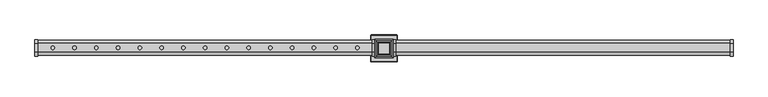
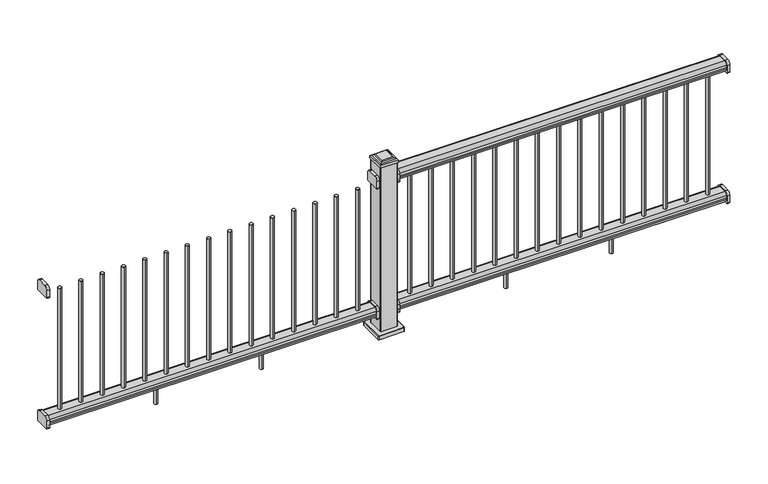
"""IFC4 building model written with IfcOpenShell, lengths in millimetres: railing geometry, NewTechWood - Peruvian Teak."""

from ifc_helpers import new_model, si_unit, point, frame, frame_2d, origin, place, context, project, spatial, polyline, circle_curve, ellipse_curve, trimmed, segment, composite_curve, outline, extrude, faceted_brep, source, transform, mapped, element, save
from ifc_brep_helpers import plane_surface, cylinder_surface, revolved_surface, advanced_brep


def railing_ed96c6c9(model_context):
    return source(origin(), model_context, "Body", "SolidModel", [
        extrude(outline(composite_curve([segment(polyline([(11496.7392028, 160.1), (11546.1692028, 160.1)]), True, "CONTINUOUS"), segment(trimmed(circle_curve(frame_2d((11546.1692028, 140.42)), 19.68), [point((11546.1692028, 160.1))], [point((11565.8492028, 140.42))], False, "CARTESIAN"), True, "CONTINUOUS"), segment(polyline([(11565.8492028, 140.42), (11565.8492028, 98.95)]), True, "CONTINUOUS"), segment(trimmed(circle_curve(frame_2d((11562.2992028, 98.95)), 3.55), [point((11565.8492028, 98.95))], [point((11562.2992028, 95.4))], False, "CARTESIAN"), True, "CONTINUOUS"), segment(polyline([(11562.2992028, 95.4), (11480.6092028, 95.4)]), True, "CONTINUOUS"), segment(trimmed(circle_curve(frame_2d((11480.6092028, 98.95)), 3.55), [point((11480.6092028, 95.4))], [point((11477.0592028, 98.95))], False, "CARTESIAN"), True, "CONTINUOUS"), segment(polyline([(11477.0592028, 98.95), (11477.0592028, 140.42)]), True, "CONTINUOUS"), segment(trimmed(circle_curve(frame_2d((11496.7392028, 140.42)), 19.68), [point((11477.0592028, 140.42))], [point((11496.7392028, 160.1))], False, "CARTESIAN"), True, "CONTINUOUS")], self_intersect=False)), frame((22177.9458255, 0.0, 0.0), z_axis=(1.0, 0.0, 0.0), x_axis=(0.0, 1.0, 0.0)), (0.0, 0.0, 1.0), 15.0),
        extrude(outline(composite_curve([segment(polyline([(11496.7392028, 160.1), (11546.1692028, 160.1)]), True, "CONTINUOUS"), segment(trimmed(circle_curve(frame_2d((11546.1692028, 140.42)), 19.68), [point((11546.1692028, 160.1))], [point((11565.8492028, 140.42))], False, "CARTESIAN"), True, "CONTINUOUS"), segment(polyline([(11565.8492028, 140.42), (11565.8492028, 98.95)]), True, "CONTINUOUS"), segment(trimmed(circle_curve(frame_2d((11562.2992028, 98.95)), 3.55), [point((11565.8492028, 98.95))], [point((11562.2992028, 95.4))], False, "CARTESIAN"), True, "CONTINUOUS"), segment(polyline([(11562.2992028, 95.4), (11480.6092028, 95.4)]), True, "CONTINUOUS"), segment(trimmed(circle_curve(frame_2d((11480.6092028, 98.95)), 3.55), [point((11480.6092028, 95.4))], [point((11477.0592028, 98.95))], False, "CARTESIAN"), True, "CONTINUOUS"), segment(polyline([(11477.0592028, 98.95), (11477.0592028, 140.42)]), True, "CONTINUOUS"), segment(trimmed(circle_curve(frame_2d((11496.7392028, 140.42)), 19.68), [point((11477.0592028, 140.42))], [point((11496.7392028, 160.1))], False, "CARTESIAN"), True, "CONTINUOUS")], self_intersect=False)), frame((23991.9458255, 0.0, 0.0), z_axis=(1.0, 0.0, 0.0), x_axis=(0.0, 1.0, 0.0)), (0.0, 0.0, 1.0), 15.0),
        extrude(outline(composite_curve([segment(trimmed(circle_curve(frame_2d((11546.1692028, 899.42)), 19.68), [point((11546.1692028, 919.1))], [point((11565.8492028, 899.42))], False, "CARTESIAN"), True, "CONTINUOUS"), segment(polyline([(11565.8492028, 899.42), (11565.8492028, 857.95)]), True, "CONTINUOUS"), segment(trimmed(circle_curve(frame_2d((11562.2992028, 857.95)), 3.55), [point((11565.8492028, 857.95))], [point((11562.2992028, 854.4))], False, "CARTESIAN"), True, "CONTINUOUS"), segment(polyline([(11562.2992028, 854.4), (11480.6092028, 854.4)]), True, "CONTINUOUS"), segment(trimmed(circle_curve(frame_2d((11480.6092028, 857.95)), 3.55), [point((11480.6092028, 854.4))], [point((11477.0592028, 857.95))], False, "CARTESIAN"), True, "CONTINUOUS"), segment(polyline([(11477.0592028, 857.95), (11477.0592028, 899.42)]), True, "CONTINUOUS"), segment(trimmed(circle_curve(frame_2d((11496.7392028, 899.42)), 19.68), [point((11477.0592028, 899.42))], [point((11496.7392028, 919.1))], False, "CARTESIAN"), True, "CONTINUOUS"), segment(polyline([(11496.7392028, 919.1), (11546.1692028, 919.1)]), True, "CONTINUOUS")], self_intersect=False)), frame((22177.9458255, 0.0, 0.0), z_axis=(1.0, 0.0, 0.0), x_axis=(0.0, 1.0, 0.0)), (0.0, 0.0, 1.0), 15.0),
        extrude(outline(composite_curve([segment(trimmed(circle_curve(frame_2d((11546.1692028, 899.42)), 19.68), [point((11546.1692028, 919.1))], [point((11565.8492028, 899.42))], False, "CARTESIAN"), True, "CONTINUOUS"), segment(polyline([(11565.8492028, 899.42), (11565.8492028, 857.95)]), True, "CONTINUOUS"), segment(trimmed(circle_curve(frame_2d((11562.2992028, 857.95)), 3.55), [point((11565.8492028, 857.95))], [point((11562.2992028, 854.4))], False, "CARTESIAN"), True, "CONTINUOUS"), segment(polyline([(11562.2992028, 854.4), (11480.6092028, 854.4)]), True, "CONTINUOUS"), segment(trimmed(circle_curve(frame_2d((11480.6092028, 857.95)), 3.55), [point((11480.6092028, 854.4))], [point((11477.0592028, 857.95))], False, "CARTESIAN"), True, "CONTINUOUS"), segment(polyline([(11477.0592028, 857.95), (11477.0592028, 899.42)]), True, "CONTINUOUS"), segment(trimmed(circle_curve(frame_2d((11496.7392028, 899.42)), 19.68), [point((11477.0592028, 899.42))], [point((11496.7392028, 919.1))], False, "CARTESIAN"), True, "CONTINUOUS"), segment(polyline([(11496.7392028, 919.1), (11546.1692028, 919.1)]), True, "CONTINUOUS")], self_intersect=False)), frame((23991.9458255, 0.0, 0.0), z_axis=(1.0, 0.0, 0.0), x_axis=(0.0, 1.0, 0.0)), (0.0, 0.0, 1.0), 15.0),
        advanced_brep(
        [(22802.945858, 11511.9542028, 127.5), (22802.945858, 11530.9542028, 127.5), (22793.445858, 11521.4542028, 127.5), (22802.945858, 11511.9542028, -0.0239603), (22802.945858, 11530.9542028, -0.0239603), (22793.445858, 11521.4542028, -0.0239603)],
        [
            (0, 1, circle_curve(frame((22802.945858, 11521.4542028, 127.5), z_axis=(0.0, 0.0, 1.0), x_axis=(0.0, 1.0, 0.0)), 9.5)),
            (1, 2, circle_curve(frame((22802.945858, 11521.4542028, 127.5), z_axis=(0.0, 0.0, 1.0), x_axis=(0.0, 1.0, 0.0)), 9.5)),
            (2, 0, circle_curve(frame((22802.945858, 11521.4542028, 127.5), z_axis=(0.0, 0.0, 1.0), x_axis=(0.0, 1.0, 0.0)), 9.5)),
            (0, 3),
            (3, 4, circle_curve(frame((22802.945858, 11521.4542028, -0.0239603), z_axis=(0.0, 0.0, 1.0), x_axis=(0.0, 1.0, 0.0)), 9.5)),
            (4, 1),
            (4, 5, circle_curve(frame((22802.945858, 11521.4542028, -0.0239603), z_axis=(0.0, 0.0, 1.0), x_axis=(0.0, 1.0, 0.0)), 9.5)),
            (5, 3, circle_curve(frame((22802.945858, 11521.4542028, -0.0239603), z_axis=(0.0, 0.0, 1.0), x_axis=(0.0, 1.0, 0.0)), 9.5)),
        ],
        [
            plane_surface(frame((23391.4457931, 11671.4542028, 127.5), z_axis=(0.0, 0.0, 1.0), x_axis=(0.0, -1.0, 0.0))),
            cylinder_surface(frame((22802.945858, 11521.4542028, -0.3192207), z_axis=(0.0, 0.0, 1.0), x_axis=(0.0, 1.0, 0.0)), 9.5),
            plane_surface(frame((22793.445858, 11671.4542028, -0.0239603), z_axis=(0.0, 0.0, -1.0), x_axis=(0.0, -1.0, 0.0))),
        ],
        [
            (0, [[1, 2, 3]]),
            (1, [[4, 5, 6, -1]]),
            (1, [[-4, -3, -2, -6, 7, 8]]),
            (2, [[-5, -8, -7]]),
        ],
    ),
        advanced_brep(
        [(23381.9457931, 11511.9542028, 127.5), (23391.4457931, 11521.4542028, 127.5), (23381.9457931, 11530.9542028, 127.5), (23381.9457931, 11511.9542028, -0.0102232), (23391.4457931, 11521.4542028, -0.0102232), (23381.9457931, 11530.9542028, -0.0102232)],
        [
            (0, 1, circle_curve(frame((23381.9457931, 11521.4542028, 127.5), z_axis=(0.0, 0.0, 1.0), x_axis=(0.0, 1.0, 0.0)), 9.5)),
            (1, 2, circle_curve(frame((23381.9457931, 11521.4542028, 127.5), z_axis=(0.0, 0.0, 1.0), x_axis=(0.0, 1.0, 0.0)), 9.5)),
            (2, 0, circle_curve(frame((23381.9457931, 11521.4542028, 127.5), z_axis=(0.0, 0.0, 1.0), x_axis=(0.0, 1.0, 0.0)), 9.5)),
            (0, 3),
            (3, 4, circle_curve(frame((23381.9457931, 11521.4542028, -0.0102232), z_axis=(0.0, 0.0, 1.0), x_axis=(0.0, 1.0, 0.0)), 9.5)),
            (4, 5, circle_curve(frame((23381.9457931, 11521.4542028, -0.0102232), z_axis=(0.0, 0.0, 1.0), x_axis=(0.0, 1.0, 0.0)), 9.5)),
            (5, 2),
            (5, 3, circle_curve(frame((23381.9457931, 11521.4542028, -0.0102232), z_axis=(0.0, 0.0, 1.0), x_axis=(0.0, 1.0, 0.0)), 9.5)),
        ],
        [
            plane_surface(frame((23391.4457931, 11671.4542028, 127.5), z_axis=(0.0, 0.0, 1.0), x_axis=(0.0, -1.0, 0.0))),
            cylinder_surface(frame((23381.9457931, 11521.4542028, 0.0), z_axis=(0.0, 0.0, 1.0), x_axis=(0.0, 1.0, 0.0)), 9.5),
            plane_surface(frame((23371.9457931, 11671.4542028, -0.0102232), z_axis=(0.0, 0.0, -1.0), x_axis=(0.0, -1.0, 0.0))),
        ],
        [
            (0, [[1, 2, 3]]),
            (1, [[4, 5, 6, 7, -2, -1]]),
            (1, [[-4, -3, -7, 8]]),
            (2, [[-5, -8, -6]]),
        ],
    ),
        extrude(outline(composite_curve([segment(trimmed(circle_curve(frame_2d((22741.7029684, 11521.4542028)), 9.6), [point((22741.7029684, 11531.0542028))], [point((22741.7029684, 11511.8542028))], False, "CARTESIAN"), True, "CONTINUOUS"), segment(trimmed(circle_curve(frame_2d((22741.7029684, 11521.4542028)), 9.6), [point((22741.7029684, 11511.8542028))], [point((22741.7029684, 11531.0542028))], False, "CARTESIAN"), True, "CONTINUOUS")], self_intersect=False)), frame((0.0, 0.0, 155.0), z_axis=(0.0, 0.0, 1.0), x_axis=(1.0, 0.0, 0.0)), (0.0, 0.0, 1.0), 704.1),
        extrude(outline(composite_curve([segment(trimmed(circle_curve(frame_2d((22858.6172541, 11521.4542028)), 9.6), [point((22858.6172541, 11531.0542028))], [point((22858.6172541, 11511.8542028))], False, "CARTESIAN"), True, "CONTINUOUS"), segment(trimmed(circle_curve(frame_2d((22858.6172541, 11521.4542028)), 9.6), [point((22858.6172541, 11511.8542028))], [point((22858.6172541, 11531.0542028))], False, "CARTESIAN"), True, "CONTINUOUS")], self_intersect=False)), frame((0.0, 0.0, 155.0), z_axis=(0.0, 0.0, 1.0), x_axis=(1.0, 0.0, 0.0)), (0.0, 0.0, 1.0), 704.1),
        extrude(outline(composite_curve([segment(trimmed(circle_curve(frame_2d((22975.5315398, 11521.4542028)), 9.6), [point((22975.5315398, 11531.0542028))], [point((22975.5315398, 11511.8542028))], False, "CARTESIAN"), True, "CONTINUOUS"), segment(trimmed(circle_curve(frame_2d((22975.5315398, 11521.4542028)), 9.6), [point((22975.5315398, 11511.8542028))], [point((22975.5315398, 11531.0542028))], False, "CARTESIAN"), True, "CONTINUOUS")], self_intersect=False)), frame((0.0, 0.0, 155.0), z_axis=(0.0, 0.0, 1.0), x_axis=(1.0, 0.0, 0.0)), (0.0, 0.0, 1.0), 704.1),
        extrude(outline(composite_curve([segment(trimmed(circle_curve(frame_2d((23092.4458255, 11521.4542028)), 9.6), [point((23092.4458255, 11531.0542028))], [point((23092.4458255, 11511.8542028))], False, "CARTESIAN"), True, "CONTINUOUS"), segment(trimmed(circle_curve(frame_2d((23092.4458255, 11521.4542028)), 9.6), [point((23092.4458255, 11511.8542028))], [point((23092.4458255, 11531.0542028))], False, "CARTESIAN"), True, "CONTINUOUS")], self_intersect=False)), frame((0.0, 0.0, 155.0), z_axis=(0.0, 0.0, 1.0), x_axis=(1.0, 0.0, 0.0)), (0.0, 0.0, 1.0), 704.1),
        extrude(outline(composite_curve([segment(trimmed(circle_curve(frame_2d((23209.3601112, 11521.4542028)), 9.6), [point((23209.3601112, 11531.0542028))], [point((23209.3601112, 11511.8542028))], False, "CARTESIAN"), True, "CONTINUOUS"), segment(trimmed(circle_curve(frame_2d((23209.3601112, 11521.4542028)), 9.6), [point((23209.3601112, 11511.8542028))], [point((23209.3601112, 11531.0542028))], False, "CARTESIAN"), True, "CONTINUOUS")], self_intersect=False)), frame((0.0, 0.0, 155.0), z_axis=(0.0, 0.0, 1.0), x_axis=(1.0, 0.0, 0.0)), (0.0, 0.0, 1.0), 704.1),
        extrude(outline(composite_curve([segment(trimmed(circle_curve(frame_2d((23326.2743969, 11521.4542028)), 9.6), [point((23326.2743969, 11531.0542028))], [point((23326.2743969, 11511.8542028))], False, "CARTESIAN"), True, "CONTINUOUS"), segment(trimmed(circle_curve(frame_2d((23326.2743969, 11521.4542028)), 9.6), [point((23326.2743969, 11511.8542028))], [point((23326.2743969, 11531.0542028))], False, "CARTESIAN"), True, "CONTINUOUS")], self_intersect=False)), frame((0.0, 0.0, 155.0), z_axis=(0.0, 0.0, 1.0), x_axis=(1.0, 0.0, 0.0)), (0.0, 0.0, 1.0), 704.1),
        extrude(outline(composite_curve([segment(trimmed(circle_curve(frame_2d((23443.1886827, 11521.4542028)), 9.6), [point((23443.1886827, 11531.0542028))], [point((23443.1886827, 11511.8542028))], False, "CARTESIAN"), True, "CONTINUOUS"), segment(trimmed(circle_curve(frame_2d((23443.1886827, 11521.4542028)), 9.6), [point((23443.1886827, 11511.8542028))], [point((23443.1886827, 11531.0542028))], False, "CARTESIAN"), True, "CONTINUOUS")], self_intersect=False)), frame((0.0, 0.0, 155.0), z_axis=(0.0, 0.0, 1.0), x_axis=(1.0, 0.0, 0.0)), (0.0, 0.0, 1.0), 704.1),
        extrude(outline(composite_curve([segment(trimmed(circle_curve(frame_2d((22274.0458255, 11521.4542028)), 9.6), [point((22274.0458255, 11531.0542028))], [point((22274.0458255, 11511.8542028))], False, "CARTESIAN"), True, "CONTINUOUS"), segment(trimmed(circle_curve(frame_2d((22274.0458255, 11521.4542028)), 9.6), [point((22274.0458255, 11511.8542028))], [point((22274.0458255, 11531.0542028))], False, "CARTESIAN"), True, "CONTINUOUS")], self_intersect=False)), frame((0.0, 0.0, 155.0), z_axis=(0.0, 0.0, 1.0), x_axis=(1.0, 0.0, 0.0)), (0.0, 0.0, 1.0), 704.1),
        extrude(outline(composite_curve([segment(trimmed(circle_curve(frame_2d((22390.9601112, 11521.4542028)), 9.6), [point((22390.9601112, 11531.0542028))], [point((22390.9601112, 11511.8542028))], False, "CARTESIAN"), True, "CONTINUOUS"), segment(trimmed(circle_curve(frame_2d((22390.9601112, 11521.4542028)), 9.6), [point((22390.9601112, 11511.8542028))], [point((22390.9601112, 11531.0542028))], False, "CARTESIAN"), True, "CONTINUOUS")], self_intersect=False)), frame((0.0, 0.0, 155.0), z_axis=(0.0, 0.0, 1.0), x_axis=(1.0, 0.0, 0.0)), (0.0, 0.0, 1.0), 704.1),
        extrude(outline(composite_curve([segment(trimmed(circle_curve(frame_2d((22507.8743969, 11521.4542028)), 9.6), [point((22507.8743969, 11531.0542028))], [point((22507.8743969, 11511.8542028))], False, "CARTESIAN"), True, "CONTINUOUS"), segment(trimmed(circle_curve(frame_2d((22507.8743969, 11521.4542028)), 9.6), [point((22507.8743969, 11511.8542028))], [point((22507.8743969, 11531.0542028))], False, "CARTESIAN"), True, "CONTINUOUS")], self_intersect=False)), frame((0.0, 0.0, 155.0), z_axis=(0.0, 0.0, 1.0), x_axis=(1.0, 0.0, 0.0)), (0.0, 0.0, 1.0), 704.1),
        extrude(outline(composite_curve([segment(trimmed(circle_curve(frame_2d((22624.7886827, 11521.4542028)), 9.6), [point((22624.7886827, 11531.0542028))], [point((22624.7886827, 11511.8542028))], False, "CARTESIAN"), True, "CONTINUOUS"), segment(trimmed(circle_curve(frame_2d((22624.7886827, 11521.4542028)), 9.6), [point((22624.7886827, 11511.8542028))], [point((22624.7886827, 11531.0542028))], False, "CARTESIAN"), True, "CONTINUOUS")], self_intersect=False)), frame((0.0, 0.0, 155.0), z_axis=(0.0, 0.0, 1.0), x_axis=(1.0, 0.0, 0.0)), (0.0, 0.0, 1.0), 704.1),
        extrude(outline(composite_curve([segment(trimmed(circle_curve(frame_2d((23560.1029684, 11521.4542028)), 9.6), [point((23560.1029684, 11531.0542028))], [point((23560.1029684, 11511.8542028))], False, "CARTESIAN"), True, "CONTINUOUS"), segment(trimmed(circle_curve(frame_2d((23560.1029684, 11521.4542028)), 9.6), [point((23560.1029684, 11511.8542028))], [point((23560.1029684, 11531.0542028))], False, "CARTESIAN"), True, "CONTINUOUS")], self_intersect=False)), frame((0.0, 0.0, 155.0), z_axis=(0.0, 0.0, 1.0), x_axis=(1.0, 0.0, 0.0)), (0.0, 0.0, 1.0), 704.1),
        extrude(outline(composite_curve([segment(trimmed(circle_curve(frame_2d((23677.0172541, 11521.4542028)), 9.6), [point((23677.0172541, 11531.0542028))], [point((23677.0172541, 11511.8542028))], False, "CARTESIAN"), True, "CONTINUOUS"), segment(trimmed(circle_curve(frame_2d((23677.0172541, 11521.4542028)), 9.6), [point((23677.0172541, 11511.8542028))], [point((23677.0172541, 11531.0542028))], False, "CARTESIAN"), True, "CONTINUOUS")], self_intersect=False)), frame((0.0, 0.0, 155.0), z_axis=(0.0, 0.0, 1.0), x_axis=(1.0, 0.0, 0.0)), (0.0, 0.0, 1.0), 704.1),
        extrude(outline(composite_curve([segment(trimmed(circle_curve(frame_2d((23793.9315398, 11521.4542028)), 9.6), [point((23793.9315398, 11531.0542028))], [point((23793.9315398, 11511.8542028))], False, "CARTESIAN"), True, "CONTINUOUS"), segment(trimmed(circle_curve(frame_2d((23793.9315398, 11521.4542028)), 9.6), [point((23793.9315398, 11511.8542028))], [point((23793.9315398, 11531.0542028))], False, "CARTESIAN"), True, "CONTINUOUS")], self_intersect=False)), frame((0.0, 0.0, 155.0), z_axis=(0.0, 0.0, 1.0), x_axis=(1.0, 0.0, 0.0)), (0.0, 0.0, 1.0), 704.1),
        extrude(outline(composite_curve([segment(trimmed(circle_curve(frame_2d((23910.8458255, 11521.4542028)), 9.6), [point((23910.8458255, 11531.0542028))], [point((23910.8458255, 11511.8542028))], False, "CARTESIAN"), True, "CONTINUOUS"), segment(trimmed(circle_curve(frame_2d((23910.8458255, 11521.4542028)), 9.6), [point((23910.8458255, 11511.8542028))], [point((23910.8458255, 11531.0542028))], False, "CARTESIAN"), True, "CONTINUOUS")], self_intersect=False)), frame((0.0, 0.0, 155.0), z_axis=(0.0, 0.0, 1.0), x_axis=(1.0, 0.0, 0.0)), (0.0, 0.0, 1.0), 704.1),
        extrude(outline(composite_curve([segment(polyline([(11543.636591, 100.0161325), (11499.2718146, 100.0161325)]), True, "CONTINUOUS"), segment(trimmed(circle_curve(frame_2d((11499.2718146, 116.7552917)), 16.7391591), [point((11499.2718146, 100.0161325))], [point((11482.5326554, 116.7552917))], False, "CARTESIAN"), True, "CONTINUOUS"), segment(polyline([(11482.5326554, 116.7552917), (11482.5326554, 126.3278473)]), True, "CONTINUOUS"), segment(trimmed(circle_curve(frame_2d((11469.6196989, 132.6660673)), 14.3846265), [point((11482.5326554, 126.3278473))], [point((11482.0441367, 139.9152621))], True, "CARTESIAN"), True, "CONTINUOUS"), segment(trimmed(circle_curve(frame_2d((11497.612742, 139.9152621)), 15.5686053), [point((11482.0441367, 139.9152621))], [point((11497.612742, 155.4838675))], False, "CARTESIAN"), True, "CONTINUOUS"), segment(polyline([(11497.612742, 155.4838675), (11545.2956636, 155.4838675)]), True, "CONTINUOUS"), segment(trimmed(circle_curve(frame_2d((11545.2956636, 139.9152621)), 15.5686053), [point((11545.2956636, 155.4838675))], [point((11560.8642689, 139.9152621))], False, "CARTESIAN"), True, "CONTINUOUS"), segment(trimmed(circle_curve(frame_2d((11573.2887067, 132.6660673)), 14.3846265), [point((11560.8642689, 139.9152621))], [point((11560.3757501, 126.3278473))], True, "CARTESIAN"), True, "CONTINUOUS"), segment(polyline([(11560.3757501, 126.3278473), (11560.3757501, 116.7552917)]), True, "CONTINUOUS"), segment(trimmed(circle_curve(frame_2d((11543.636591, 116.7552917)), 16.7391591), [point((11560.3757501, 116.7552917))], [point((11543.636591, 100.0161325))], False, "CARTESIAN"), True, "CONTINUOUS")], self_intersect=False)), frame((22192.9458255, 0.0, 0.0), z_axis=(1.0, 0.0, 0.0), x_axis=(0.0, 1.0, 0.0)), (0.0, 0.0, 1.0), 1799.0),
        extrude(outline(composite_curve([segment(polyline([(11543.636591, 859.0161325), (11499.2718146, 859.0161325)]), True, "CONTINUOUS"), segment(trimmed(circle_curve(frame_2d((11499.2718146, 875.7552917)), 16.7391591), [point((11499.2718146, 859.0161325))], [point((11482.5326554, 875.7552917))], False, "CARTESIAN"), True, "CONTINUOUS"), segment(polyline([(11482.5326554, 875.7552917), (11482.5326554, 885.3278473)]), True, "CONTINUOUS"), segment(trimmed(circle_curve(frame_2d((11469.6196989, 891.6660673)), 14.3846265), [point((11482.5326554, 885.3278473))], [point((11482.0441367, 898.9152621))], True, "CARTESIAN"), True, "CONTINUOUS"), segment(trimmed(circle_curve(frame_2d((11497.612742, 898.9152621)), 15.5686053), [point((11482.0441367, 898.9152621))], [point((11497.612742, 914.4838675))], False, "CARTESIAN"), True, "CONTINUOUS"), segment(polyline([(11497.612742, 914.4838675), (11545.2956636, 914.4838675)]), True, "CONTINUOUS"), segment(trimmed(circle_curve(frame_2d((11545.2956636, 898.9152621)), 15.5686053), [point((11545.2956636, 914.4838675))], [point((11560.8642689, 898.9152621))], False, "CARTESIAN"), True, "CONTINUOUS"), segment(trimmed(circle_curve(frame_2d((11573.2887067, 891.6660673)), 14.3846265), [point((11560.8642689, 898.9152621))], [point((11560.3757501, 885.3278473))], True, "CARTESIAN"), True, "CONTINUOUS"), segment(polyline([(11560.3757501, 885.3278473), (11560.3757501, 875.7552917)]), True, "CONTINUOUS"), segment(trimmed(circle_curve(frame_2d((11543.636591, 875.7552917)), 16.7391591), [point((11560.3757501, 875.7552917))], [point((11543.636591, 859.0161325))], False, "CARTESIAN"), True, "CONTINUOUS")], self_intersect=False)), frame((22192.9458255, 0.0, 0.0), z_axis=(1.0, 0.0, 0.0), x_axis=(0.0, 1.0, 0.0)), (0.0, 0.0, 1.0), 1799.0),
        advanced_brep(
        [(22198.0584818, 11447.5944784, 22.5), (22201.2180491, 11450.7540458, 22.5), (22201.2180491, 11585.4340458, 22.5), (22198.0584818, 11588.5936132, 22.5), (22063.3784818, 11588.5936132, 22.5), (22060.2189144, 11585.4340458, 22.5), (22060.2189144, 11450.7540458, 22.5), (22063.3784818, 11447.5944784, 22.5), (22058.2184818, 11585.4340458, 0.0), (22063.3784818, 11590.5940458, 0.0), (22198.0584818, 11590.5940458, 0.0), (22203.2184818, 11585.4340458, 0.0), (22203.2184818, 11450.7540458, 0.0), (22198.0584818, 11445.5940458, 0.0), (22063.3784818, 11445.5940458, 0.0), (22058.2184818, 11450.7540458, 0.0), (22058.2184818, 11450.7540458, 20.4995674), (22058.2184818, 11585.4340458, 20.4995674), (22063.3784818, 11445.5940458, 20.499569), (22198.0584818, 11445.5940458, 20.499569), (22203.2184818, 11450.7540458, 20.4995691), (22203.2184818, 11585.4340458, 20.4995674), (22198.0584818, 11590.5940458, 20.4995692), (22063.3784818, 11590.5940458, 20.4995674)],
        [
            (0, 1, circle_curve(frame((22198.0584818, 11450.7540458, 22.5), z_axis=(0.0, 0.0, 1.0), x_axis=(0.0, -1.0, 0.0)), 3.1595674)),
            (1, 2),
            (2, 3, circle_curve(frame((22198.0584818, 11585.4340458, 22.5), z_axis=(0.0, 0.0, 1.0), x_axis=(1.0, 0.0, 0.0)), 3.1595674)),
            (3, 4),
            (4, 5, circle_curve(frame((22063.3784818, 11585.4340458, 22.5), z_axis=(0.0, 0.0, 1.0), x_axis=(0.0, 1.0, 0.0)), 3.1595674)),
            (5, 6),
            (6, 7, circle_curve(frame((22063.3784818, 11450.7540458, 22.5), z_axis=(0.0, 0.0, 1.0), x_axis=(-1.0, 0.0, 0.0)), 3.1595674)),
            (7, 0),
            (8, 9, circle_curve(frame((22063.3784818, 11585.4340458, 0.0), z_axis=(0.0, 0.0, -1.0), x_axis=(0.0, 1.0, 0.0)), 5.16)),
            (9, 10),
            (10, 11, circle_curve(frame((22198.0584818, 11585.4340458, 0.0), z_axis=(0.0, 0.0, -1.0), x_axis=(0.0, 1.0, 0.0)), 5.16)),
            (11, 12),
            (12, 13, circle_curve(frame((22198.0584818, 11450.7540458, 0.0), z_axis=(0.0, 0.0, -1.0), x_axis=(0.0, 1.0, 0.0)), 5.16)),
            (13, 14),
            (14, 15, circle_curve(frame((22063.3784818, 11450.7540458, 0.0), z_axis=(0.0, 0.0, -1.0), x_axis=(0.0, 1.0, 0.0)), 5.16)),
            (15, 8),
            (15, 16),
            (16, 17),
            (17, 8),
            (14, 18),
            (18, 16, circle_curve(frame((22063.3784818, 11450.7540458, 20.4995674), z_axis=(0.0, 0.0, -1.0), x_axis=(0.0, 1.0, 0.0)), 5.16)),
            (13, 19),
            (19, 18),
            (12, 20),
            (20, 19, circle_curve(frame((22198.0584818, 11450.7540458, 20.4995674), z_axis=(0.0, 0.0, -1.0), x_axis=(0.0, 1.0, 0.0)), 5.16)),
            (11, 21),
            (21, 20),
            (10, 22),
            (22, 21, circle_curve(frame((22198.0584818, 11585.4340458, 20.4995674), z_axis=(0.0, 0.0, -1.0), x_axis=(0.0, 1.0, 0.0)), 5.16)),
            (9, 23),
            (23, 22),
            (17, 23, circle_curve(frame((22063.3784818, 11585.4340458, 20.4995674), z_axis=(0.0, 0.0, -1.0), x_axis=(0.0, 1.0, 0.0)), 5.16)),
            (20, 1, circle_curve(frame((22201.2180491, 11450.7540458, 20.4995674), z_axis=(0.0, -1.0, 0.0), x_axis=(-1.0, 0.0, 0.0)), 2.0004326)),
            (0, 19, circle_curve(frame((22198.0584818, 11447.5944784, 20.4995674), z_axis=(1.0, 0.0, 0.0), x_axis=(0.0, 1.0, 0.0)), 2.0004326)),
            (21, 2, circle_curve(frame((22201.2180491, 11585.4340458, 20.4995674), z_axis=(0.0, -1.0, 0.0), x_axis=(-1.0, 0.0, 0.0)), 2.0004326)),
            (22, 3, circle_curve(frame((22198.0584818, 11588.5936132, 20.4995674), z_axis=(1.0, 0.0, 0.0), x_axis=(0.0, -1.0, 0.0)), 2.0004326)),
            (23, 4, circle_curve(frame((22063.3784818, 11588.5936132, 20.4995674), z_axis=(1.0, 0.0, 0.0), x_axis=(0.0, -1.0, 0.0)), 2.0004326)),
            (17, 5, circle_curve(frame((22060.2189144, 11585.4340458, 20.4995674), z_axis=(0.0, 1.0, 0.0), x_axis=(1.0, 0.0, 0.0)), 2.0004326)),
            (16, 6, circle_curve(frame((22060.2189144, 11450.7540458, 20.4995674), z_axis=(0.0, 1.0, 0.0), x_axis=(1.0, 0.0, 0.0)), 2.0004326)),
            (18, 7, circle_curve(frame((22063.3784818, 11447.5944784, 20.4995674), z_axis=(-1.0, 0.0, 0.0), x_axis=(0.0, 1.0, 0.0)), 2.0004326)),
        ],
        [
            plane_surface(frame((22058.2184818, 11558.658052, 22.5), z_axis=(0.0, 0.0, 1.0), x_axis=(0.0, -1.0, 0.0))),
            plane_surface(frame((22058.2184818, 11558.658052, 0.0), z_axis=(0.0, 0.0, -1.0), x_axis=(0.0, 1.0, 0.0))),
            plane_surface(frame((22058.2184818, 11585.4340458, 22.5), z_axis=(-1.0, 0.0, 0.0), x_axis=(0.0, 0.0, -1.0))),
            cylinder_surface(frame((22063.3784818, 11450.7540458, 0.0), z_axis=(0.0, 0.0, 1.0), x_axis=(0.0, 1.0, 0.0)), 5.16),
            plane_surface(frame((22063.3784818, 11445.5940458, 22.5), z_axis=(0.0, -1.0, 0.0), x_axis=(0.0, 0.0, -1.0))),
            cylinder_surface(frame((22198.0584818, 11450.7540458, 0.0), z_axis=(0.0, 0.0, 1.0), x_axis=(0.0, 1.0, 0.0)), 5.16),
            plane_surface(frame((22203.2184818, 11450.7540458, 22.5), z_axis=(1.0, 0.0, 0.0), x_axis=(0.0, 0.0, -1.0))),
            cylinder_surface(frame((22198.0584818, 11585.4340458, 0.0), z_axis=(0.0, 0.0, 1.0), x_axis=(0.0, 1.0, 0.0)), 5.16),
            plane_surface(frame((22198.0584818, 11590.5940458, 22.5), z_axis=(0.0, 1.0, 0.0), x_axis=(0.0, 0.0, -1.0))),
            cylinder_surface(frame((22063.3784818, 11585.4340458, 0.0), z_axis=(0.0, 0.0, 1.0), x_axis=(0.0, 1.0, 0.0)), 5.16),
            revolved_surface(trimmed(ellipse_curve(frame((22198.0584818, 11447.5944784, 20.4995674), z_axis=(-1.0, 0.0, 0.0), x_axis=(0.0, 1.0, 0.0)), 2.0004326, 2.0004326), [point((22198.0584818, 11445.5940458, 20.4995674))], [point((22198.0584818, 11447.5944784, 22.5))], True, "CARTESIAN"), (22198.0584818, 11450.7540458, 22.5), (0.0, 0.0, 1.0)),
            cylinder_surface(frame((22201.2180491, 11450.7540458, 20.4995674), z_axis=(0.0, 1.0, 0.0), x_axis=(-1.0, 0.0, 0.0)), 2.0004326),
            revolved_surface(trimmed(ellipse_curve(frame((22201.2180491, 11585.4340458, 20.4995674), z_axis=(0.0, -1.0, 0.0), x_axis=(-1.0, 0.0, 0.0)), 2.0004326, 2.0004326), [point((22203.2184818, 11585.4340458, 20.4995674))], [point((22201.2180491, 11585.4340458, 22.5))], True, "CARTESIAN"), (22198.0584818, 11585.4340458, 22.5), (0.0, 0.0, 1.0)),
            cylinder_surface(frame((22198.0584818, 11588.5936132, 20.4995674), z_axis=(-1.0, 0.0, 0.0), x_axis=(0.0, -1.0, 0.0)), 2.0004326),
            revolved_surface(trimmed(ellipse_curve(frame((22063.3784818, 11588.5936132, 20.4995674), z_axis=(1.0, 0.0, 0.0), x_axis=(0.0, -1.0, 0.0)), 2.0004326, 2.0004326), [point((22063.3784818, 11590.5940458, 20.4995674))], [point((22063.3784818, 11588.5936132, 22.5))], True, "CARTESIAN"), (22063.3784818, 11585.4340458, 22.5), (0.0, 0.0, 1.0)),
            cylinder_surface(frame((22060.2189144, 11585.4340458, 20.4995674), z_axis=(0.0, -1.0, 0.0), x_axis=(1.0, 0.0, 0.0)), 2.0004326),
            revolved_surface(trimmed(ellipse_curve(frame((22060.2189144, 11450.7540458, 20.4995674), z_axis=(0.0, 1.0, 0.0), x_axis=(1.0, 0.0, 0.0)), 2.0004326, 2.0004326), [point((22058.2184818, 11450.7540458, 20.4995674))], [point((22060.2189144, 11450.7540458, 22.5))], True, "CARTESIAN"), (22063.3784818, 11450.7540458, 22.5), (0.0, 0.0, 1.0)),
            cylinder_surface(frame((22063.3784818, 11447.5944784, 20.4995674), z_axis=(1.0, 0.0, 0.0), x_axis=(0.0, 1.0, 0.0)), 2.0004326),
        ],
        [
            (0, [[1, 2, 3, 4, 5, 6, 7, 8]]),
            (1, [[9, 10, 11, 12, 13, 14, 15, 16]]),
            (2, [[-16, 17, 18, 19]]),
            (3, [[-15, 20, 21, -17]]),
            (4, [[-14, 22, 23, -20]]),
            (5, [[-13, 24, 25, -22]]),
            (6, [[-12, 26, 27, -24]]),
            (7, [[-11, 28, 29, -26]]),
            (8, [[-10, 30, 31, -28]]),
            (9, [[-9, -19, 32, -30]]),
            (10, [[33, -1, 34, -25]]),
            (11, [[-33, -27, 35, -2]]),
            (12, [[-35, -29, 36, -3]]),
            (13, [[-36, -31, 37, -4]]),
            (14, [[-37, -32, 38, -5]]),
            (15, [[-38, -18, 39, -6]]),
            (16, [[-39, -21, 40, -7]]),
            (17, [[-34, -8, -40, -23]]),
        ],
    ),
        faceted_brep([(22179.7684818, 11469.0440458, 990.769699), (22179.7684818, 11469.0440458, 976.139699), (22179.7684818, 11567.1440458, 976.139699), (22179.7684818, 11567.1440458, 990.769699), (22175.7358057, 11473.0767219, 996.0825536), (22175.7358057, 11563.1113697, 996.0825536), (22166.510698, 11482.3018295, 1000.5958992), (22166.510698, 11553.886262, 1000.5958992), (22162.0139306, 11486.7985969, 1004.4), (22162.0139306, 11549.3894946, 1004.4), (22081.6684818, 11567.1440458, 976.139699), (22081.6684818, 11567.1440458, 990.769699), (22085.7011579, 11563.1113697, 996.0825536), (22094.9262655, 11553.886262, 1000.5958992), (22099.4230329, 11549.3894946, 1004.4), (22081.6684818, 11469.0440458, 976.139699), (22081.6684818, 11469.0440458, 990.769699), (22085.7011579, 11473.0767219, 996.0825536), (22094.9262655, 11482.3018295, 1000.5958992), (22099.4230329, 11486.7985969, 1004.4)], [[[0, 1, 2, 3]], [[4, 0, 3, 5]], [[6, 4, 5, 7]], [[8, 6, 7, 9]], [[3, 2, 10, 11]], [[5, 3, 11, 12]], [[7, 5, 12, 13]], [[9, 7, 13, 14]], [[11, 10, 15, 16]], [[12, 11, 16, 17]], [[13, 12, 17, 18]], [[14, 13, 18, 19]], [[16, 15, 1, 0]], [[17, 16, 0, 4]], [[18, 17, 4, 6]], [[19, 18, 6, 8]], [[9, 14, 19, 8]], [[1, 15, 10, 2]]]),
        extrude(outline(composite_curve([segment(trimmed(circle_curve(frame_2d((22087.1284818, 11474.5040458)), 3.61), [point((22087.1284818, 11470.8940458))], [point((22083.5184818, 11474.5040458))], False, "CARTESIAN"), True, "CONTINUOUS"), segment(polyline([(22083.5184818, 11474.5040458), (22083.5184818, 11561.6840458)]), True, "CONTINUOUS"), segment(trimmed(circle_curve(frame_2d((22087.1284818, 11561.6840458)), 3.61), [point((22083.5184818, 11561.6840458))], [point((22087.1284818, 11565.2940458))], False, "CARTESIAN"), True, "CONTINUOUS"), segment(polyline([(22087.1284818, 11565.2940458), (22174.3084818, 11565.2940458)]), True, "CONTINUOUS"), segment(trimmed(circle_curve(frame_2d((22174.3084818, 11561.6840458)), 3.61), [point((22174.3084818, 11565.2940458))], [point((22177.9184818, 11561.6840458))], False, "CARTESIAN"), True, "CONTINUOUS"), segment(polyline([(22177.9184818, 11561.6840458), (22177.9184818, 11474.5040458)]), True, "CONTINUOUS"), segment(trimmed(circle_curve(frame_2d((22174.3084818, 11474.5040458)), 3.61), [point((22177.9184818, 11474.5040458))], [point((22174.3084818, 11470.8940458))], False, "CARTESIAN"), True, "CONTINUOUS"), segment(polyline([(22174.3084818, 11470.8940458), (22087.1284818, 11470.8940458)]), True, "CONTINUOUS")], self_intersect=False)), frame((0.0, 0.0, 22.5), z_axis=(0.0, 0.0, 1.0), x_axis=(1.0, 0.0, 0.0)), (0.0, 0.0, 1.0), 953.639699),
        extrude(outline(composite_curve([segment(polyline([(11496.7392028, 160.1), (11546.1692028, 160.1)]), True, "CONTINUOUS"), segment(trimmed(circle_curve(frame_2d((11546.1692028, 140.42)), 19.68), [point((11546.1692028, 160.1))], [point((11565.8492028, 140.42))], False, "CARTESIAN"), True, "CONTINUOUS"), segment(polyline([(11565.8492028, 140.42), (11565.8492028, 98.95)]), True, "CONTINUOUS"), segment(trimmed(circle_curve(frame_2d((11562.2992028, 98.95)), 3.55), [point((11565.8492028, 98.95))], [point((11562.2992028, 95.4))], False, "CARTESIAN"), True, "CONTINUOUS"), segment(polyline([(11562.2992028, 95.4), (11480.6092028, 95.4)]), True, "CONTINUOUS"), segment(trimmed(circle_curve(frame_2d((11480.6092028, 98.95)), 3.55), [point((11480.6092028, 95.4))], [point((11477.0592028, 98.95))], False, "CARTESIAN"), True, "CONTINUOUS"), segment(polyline([(11477.0592028, 98.95), (11477.0592028, 140.42)]), True, "CONTINUOUS"), segment(trimmed(circle_curve(frame_2d((11496.7392028, 140.42)), 19.68), [point((11477.0592028, 140.42))], [point((11496.7392028, 160.1))], False, "CARTESIAN"), True, "CONTINUOUS")], self_intersect=False)), frame((20254.491138, 0.0, 0.0), z_axis=(1.0, 0.0, 0.0), x_axis=(0.0, 1.0, 0.0)), (0.0, 0.0, 1.0), 15.0),
        extrude(outline(composite_curve([segment(polyline([(11496.7392028, 160.1), (11546.1692028, 160.1)]), True, "CONTINUOUS"), segment(trimmed(circle_curve(frame_2d((11546.1692028, 140.42)), 19.68), [point((11546.1692028, 160.1))], [point((11565.8492028, 140.42))], False, "CARTESIAN"), True, "CONTINUOUS"), segment(polyline([(11565.8492028, 140.42), (11565.8492028, 98.95)]), True, "CONTINUOUS"), segment(trimmed(circle_curve(frame_2d((11562.2992028, 98.95)), 3.55), [point((11565.8492028, 98.95))], [point((11562.2992028, 95.4))], False, "CARTESIAN"), True, "CONTINUOUS"), segment(polyline([(11562.2992028, 95.4), (11480.6092028, 95.4)]), True, "CONTINUOUS"), segment(trimmed(circle_curve(frame_2d((11480.6092028, 98.95)), 3.55), [point((11480.6092028, 95.4))], [point((11477.0592028, 98.95))], False, "CARTESIAN"), True, "CONTINUOUS"), segment(polyline([(11477.0592028, 98.95), (11477.0592028, 140.42)]), True, "CONTINUOUS"), segment(trimmed(circle_curve(frame_2d((11496.7392028, 140.42)), 19.68), [point((11477.0592028, 140.42))], [point((11496.7392028, 160.1))], False, "CARTESIAN"), True, "CONTINUOUS")], self_intersect=False)), frame((22068.491138, 0.0, 0.0), z_axis=(1.0, 0.0, 0.0), x_axis=(0.0, 1.0, 0.0)), (0.0, 0.0, 1.0), 15.0),
        extrude(outline(composite_curve([segment(trimmed(circle_curve(frame_2d((11546.1692028, 899.42)), 19.68), [point((11546.1692028, 919.1))], [point((11565.8492028, 899.42))], False, "CARTESIAN"), True, "CONTINUOUS"), segment(polyline([(11565.8492028, 899.42), (11565.8492028, 857.95)]), True, "CONTINUOUS"), segment(trimmed(circle_curve(frame_2d((11562.2992028, 857.95)), 3.55), [point((11565.8492028, 857.95))], [point((11562.2992028, 854.4))], False, "CARTESIAN"), True, "CONTINUOUS"), segment(polyline([(11562.2992028, 854.4), (11480.6092028, 854.4)]), True, "CONTINUOUS"), segment(trimmed(circle_curve(frame_2d((11480.6092028, 857.95)), 3.55), [point((11480.6092028, 854.4))], [point((11477.0592028, 857.95))], False, "CARTESIAN"), True, "CONTINUOUS"), segment(polyline([(11477.0592028, 857.95), (11477.0592028, 899.42)]), True, "CONTINUOUS"), segment(trimmed(circle_curve(frame_2d((11496.7392028, 899.42)), 19.68), [point((11477.0592028, 899.42))], [point((11496.7392028, 919.1))], False, "CARTESIAN"), True, "CONTINUOUS"), segment(polyline([(11496.7392028, 919.1), (11546.1692028, 919.1)]), True, "CONTINUOUS")], self_intersect=False)), frame((20254.491138, 0.0, 0.0), z_axis=(1.0, 0.0, 0.0), x_axis=(0.0, 1.0, 0.0)), (0.0, 0.0, 1.0), 15.0),
        extrude(outline(composite_curve([segment(trimmed(circle_curve(frame_2d((11546.1692028, 899.42)), 19.68), [point((11546.1692028, 919.1))], [point((11565.8492028, 899.42))], False, "CARTESIAN"), True, "CONTINUOUS"), segment(polyline([(11565.8492028, 899.42), (11565.8492028, 857.95)]), True, "CONTINUOUS"), segment(trimmed(circle_curve(frame_2d((11562.2992028, 857.95)), 3.55), [point((11565.8492028, 857.95))], [point((11562.2992028, 854.4))], False, "CARTESIAN"), True, "CONTINUOUS"), segment(polyline([(11562.2992028, 854.4), (11480.6092028, 854.4)]), True, "CONTINUOUS"), segment(trimmed(circle_curve(frame_2d((11480.6092028, 857.95)), 3.55), [point((11480.6092028, 854.4))], [point((11477.0592028, 857.95))], False, "CARTESIAN"), True, "CONTINUOUS"), segment(polyline([(11477.0592028, 857.95), (11477.0592028, 899.42)]), True, "CONTINUOUS"), segment(trimmed(circle_curve(frame_2d((11496.7392028, 899.42)), 19.68), [point((11477.0592028, 899.42))], [point((11496.7392028, 919.1))], False, "CARTESIAN"), True, "CONTINUOUS"), segment(polyline([(11496.7392028, 919.1), (11546.1692028, 919.1)]), True, "CONTINUOUS")], self_intersect=False)), frame((22068.491138, 0.0, 0.0), z_axis=(1.0, 0.0, 0.0), x_axis=(0.0, 1.0, 0.0)), (0.0, 0.0, 1.0), 15.0),
        advanced_brep(
        [(20879.4911705, 11511.9542028, 127.5), (20879.4911705, 11530.9542028, 127.5), (20869.9911705, 11521.4542028, 127.5), (20879.4911705, 11511.9542028, -0.0239603), (20879.4911705, 11530.9542028, -0.0239603), (20869.9911705, 11521.4542028, -0.0239603)],
        [
            (0, 1, circle_curve(frame((20879.4911705, 11521.4542028, 127.5), z_axis=(0.0, 0.0, 1.0), x_axis=(0.0, 1.0, 0.0)), 9.5)),
            (1, 2, circle_curve(frame((20879.4911705, 11521.4542028, 127.5), z_axis=(0.0, 0.0, 1.0), x_axis=(0.0, 1.0, 0.0)), 9.5)),
            (2, 0, circle_curve(frame((20879.4911705, 11521.4542028, 127.5), z_axis=(0.0, 0.0, 1.0), x_axis=(0.0, 1.0, 0.0)), 9.5)),
            (0, 3),
            (3, 4, circle_curve(frame((20879.4911705, 11521.4542028, -0.0239603), z_axis=(0.0, 0.0, 1.0), x_axis=(0.0, 1.0, 0.0)), 9.5)),
            (4, 1),
            (4, 5, circle_curve(frame((20879.4911705, 11521.4542028, -0.0239603), z_axis=(0.0, 0.0, 1.0), x_axis=(0.0, 1.0, 0.0)), 9.5)),
            (5, 3, circle_curve(frame((20879.4911705, 11521.4542028, -0.0239603), z_axis=(0.0, 0.0, 1.0), x_axis=(0.0, 1.0, 0.0)), 9.5)),
        ],
        [
            plane_surface(frame((21467.9911056, 11671.4542028, 127.5), z_axis=(0.0, 0.0, 1.0), x_axis=(0.0, -1.0, 0.0))),
            cylinder_surface(frame((20879.4911705, 11521.4542028, -0.3192207), z_axis=(0.0, 0.0, 1.0), x_axis=(0.0, 1.0, 0.0)), 9.5),
            plane_surface(frame((20869.9911705, 11671.4542028, -0.0239603), z_axis=(0.0, 0.0, -1.0), x_axis=(0.0, -1.0, 0.0))),
        ],
        [
            (0, [[1, 2, 3]]),
            (1, [[4, 5, 6, -1]]),
            (1, [[-4, -3, -2, -6, 7, 8]]),
            (2, [[-5, -8, -7]]),
        ],
    ),
        advanced_brep(
        [(21458.4911056, 11511.9542028, 127.5), (21467.9911056, 11521.4542028, 127.5), (21458.4911056, 11530.9542028, 127.5), (21458.4911056, 11511.9542028, -0.0102232), (21467.9911056, 11521.4542028, -0.0102232), (21458.4911056, 11530.9542028, -0.0102232)],
        [
            (0, 1, circle_curve(frame((21458.4911056, 11521.4542028, 127.5), z_axis=(0.0, 0.0, 1.0), x_axis=(0.0, 1.0, 0.0)), 9.5)),
            (1, 2, circle_curve(frame((21458.4911056, 11521.4542028, 127.5), z_axis=(0.0, 0.0, 1.0), x_axis=(0.0, 1.0, 0.0)), 9.5)),
            (2, 0, circle_curve(frame((21458.4911056, 11521.4542028, 127.5), z_axis=(0.0, 0.0, 1.0), x_axis=(0.0, 1.0, 0.0)), 9.5)),
            (0, 3),
            (3, 4, circle_curve(frame((21458.4911056, 11521.4542028, -0.0102232), z_axis=(0.0, 0.0, 1.0), x_axis=(0.0, 1.0, 0.0)), 9.5)),
            (4, 5, circle_curve(frame((21458.4911056, 11521.4542028, -0.0102232), z_axis=(0.0, 0.0, 1.0), x_axis=(0.0, 1.0, 0.0)), 9.5)),
            (5, 2),
            (5, 3, circle_curve(frame((21458.4911056, 11521.4542028, -0.0102232), z_axis=(0.0, 0.0, 1.0), x_axis=(0.0, 1.0, 0.0)), 9.5)),
        ],
        [
            plane_surface(frame((21467.9911056, 11671.4542028, 127.5), z_axis=(0.0, 0.0, 1.0), x_axis=(0.0, -1.0, 0.0))),
            cylinder_surface(frame((21458.4911056, 11521.4542028, 0.0), z_axis=(0.0, 0.0, 1.0), x_axis=(0.0, 1.0, 0.0)), 9.5),
            plane_surface(frame((21448.4911056, 11671.4542028, -0.0102232), z_axis=(0.0, 0.0, -1.0), x_axis=(0.0, -1.0, 0.0))),
        ],
        [
            (0, [[1, 2, 3]]),
            (1, [[4, 5, 6, 7, -2, -1]]),
            (1, [[-4, -3, -7, 8]]),
            (2, [[-5, -8, -6]]),
        ],
    ),
        extrude(outline(composite_curve([segment(trimmed(circle_curve(frame_2d((20818.2482809, 11521.4542028)), 9.6), [point((20818.2482809, 11531.0542028))], [point((20818.2482809, 11511.8542028))], False, "CARTESIAN"), True, "CONTINUOUS"), segment(trimmed(circle_curve(frame_2d((20818.2482809, 11521.4542028)), 9.6), [point((20818.2482809, 11511.8542028))], [point((20818.2482809, 11531.0542028))], False, "CARTESIAN"), True, "CONTINUOUS")], self_intersect=False)), frame((0.0, 0.0, 155.0), z_axis=(0.0, 0.0, 1.0), x_axis=(1.0, 0.0, 0.0)), (0.0, 0.0, 1.0), 704.1),
        extrude(outline(composite_curve([segment(trimmed(circle_curve(frame_2d((20935.1625666, 11521.4542028)), 9.6), [point((20935.1625666, 11531.0542028))], [point((20935.1625666, 11511.8542028))], False, "CARTESIAN"), True, "CONTINUOUS"), segment(trimmed(circle_curve(frame_2d((20935.1625666, 11521.4542028)), 9.6), [point((20935.1625666, 11511.8542028))], [point((20935.1625666, 11531.0542028))], False, "CARTESIAN"), True, "CONTINUOUS")], self_intersect=False)), frame((0.0, 0.0, 155.0), z_axis=(0.0, 0.0, 1.0), x_axis=(1.0, 0.0, 0.0)), (0.0, 0.0, 1.0), 704.1),
        extrude(outline(composite_curve([segment(trimmed(circle_curve(frame_2d((21052.0768523, 11521.4542028)), 9.6), [point((21052.0768523, 11531.0542028))], [point((21052.0768523, 11511.8542028))], False, "CARTESIAN"), True, "CONTINUOUS"), segment(trimmed(circle_curve(frame_2d((21052.0768523, 11521.4542028)), 9.6), [point((21052.0768523, 11511.8542028))], [point((21052.0768523, 11531.0542028))], False, "CARTESIAN"), True, "CONTINUOUS")], self_intersect=False)), frame((0.0, 0.0, 155.0), z_axis=(0.0, 0.0, 1.0), x_axis=(1.0, 0.0, 0.0)), (0.0, 0.0, 1.0), 704.1),
        extrude(outline(composite_curve([segment(trimmed(circle_curve(frame_2d((21168.991138, 11521.4542028)), 9.6), [point((21168.991138, 11531.0542028))], [point((21168.991138, 11511.8542028))], False, "CARTESIAN"), True, "CONTINUOUS"), segment(trimmed(circle_curve(frame_2d((21168.991138, 11521.4542028)), 9.6), [point((21168.991138, 11511.8542028))], [point((21168.991138, 11531.0542028))], False, "CARTESIAN"), True, "CONTINUOUS")], self_intersect=False)), frame((0.0, 0.0, 155.0), z_axis=(0.0, 0.0, 1.0), x_axis=(1.0, 0.0, 0.0)), (0.0, 0.0, 1.0), 704.1),
        extrude(outline(composite_curve([segment(trimmed(circle_curve(frame_2d((21285.9054237, 11521.4542028)), 9.6), [point((21285.9054237, 11531.0542028))], [point((21285.9054237, 11511.8542028))], False, "CARTESIAN"), True, "CONTINUOUS"), segment(trimmed(circle_curve(frame_2d((21285.9054237, 11521.4542028)), 9.6), [point((21285.9054237, 11511.8542028))], [point((21285.9054237, 11531.0542028))], False, "CARTESIAN"), True, "CONTINUOUS")], self_intersect=False)), frame((0.0, 0.0, 155.0), z_axis=(0.0, 0.0, 1.0), x_axis=(1.0, 0.0, 0.0)), (0.0, 0.0, 1.0), 704.1),
        extrude(outline(composite_curve([segment(trimmed(circle_curve(frame_2d((21402.8197094, 11521.4542028)), 9.6), [point((21402.8197094, 11531.0542028))], [point((21402.8197094, 11511.8542028))], False, "CARTESIAN"), True, "CONTINUOUS"), segment(trimmed(circle_curve(frame_2d((21402.8197094, 11521.4542028)), 9.6), [point((21402.8197094, 11511.8542028))], [point((21402.8197094, 11531.0542028))], False, "CARTESIAN"), True, "CONTINUOUS")], self_intersect=False)), frame((0.0, 0.0, 155.0), z_axis=(0.0, 0.0, 1.0), x_axis=(1.0, 0.0, 0.0)), (0.0, 0.0, 1.0), 704.1),
        extrude(outline(composite_curve([segment(trimmed(circle_curve(frame_2d((21519.7339952, 11521.4542028)), 9.6), [point((21519.7339952, 11531.0542028))], [point((21519.7339952, 11511.8542028))], False, "CARTESIAN"), True, "CONTINUOUS"), segment(trimmed(circle_curve(frame_2d((21519.7339952, 11521.4542028)), 9.6), [point((21519.7339952, 11511.8542028))], [point((21519.7339952, 11531.0542028))], False, "CARTESIAN"), True, "CONTINUOUS")], self_intersect=False)), frame((0.0, 0.0, 155.0), z_axis=(0.0, 0.0, 1.0), x_axis=(1.0, 0.0, 0.0)), (0.0, 0.0, 1.0), 704.1),
        extrude(outline(composite_curve([segment(trimmed(circle_curve(frame_2d((20350.591138, 11521.4542028)), 9.6), [point((20350.591138, 11531.0542028))], [point((20350.591138, 11511.8542028))], False, "CARTESIAN"), True, "CONTINUOUS"), segment(trimmed(circle_curve(frame_2d((20350.591138, 11521.4542028)), 9.6), [point((20350.591138, 11511.8542028))], [point((20350.591138, 11531.0542028))], False, "CARTESIAN"), True, "CONTINUOUS")], self_intersect=False)), frame((0.0, 0.0, 155.0), z_axis=(0.0, 0.0, 1.0), x_axis=(1.0, 0.0, 0.0)), (0.0, 0.0, 1.0), 704.1),
        extrude(outline(composite_curve([segment(trimmed(circle_curve(frame_2d((20467.5054237, 11521.4542028)), 9.6), [point((20467.5054237, 11531.0542028))], [point((20467.5054237, 11511.8542028))], False, "CARTESIAN"), True, "CONTINUOUS"), segment(trimmed(circle_curve(frame_2d((20467.5054237, 11521.4542028)), 9.6), [point((20467.5054237, 11511.8542028))], [point((20467.5054237, 11531.0542028))], False, "CARTESIAN"), True, "CONTINUOUS")], self_intersect=False)), frame((0.0, 0.0, 155.0), z_axis=(0.0, 0.0, 1.0), x_axis=(1.0, 0.0, 0.0)), (0.0, 0.0, 1.0), 704.1),
        extrude(outline(composite_curve([segment(trimmed(circle_curve(frame_2d((20584.4197094, 11521.4542028)), 9.6), [point((20584.4197094, 11531.0542028))], [point((20584.4197094, 11511.8542028))], False, "CARTESIAN"), True, "CONTINUOUS"), segment(trimmed(circle_curve(frame_2d((20584.4197094, 11521.4542028)), 9.6), [point((20584.4197094, 11511.8542028))], [point((20584.4197094, 11531.0542028))], False, "CARTESIAN"), True, "CONTINUOUS")], self_intersect=False)), frame((0.0, 0.0, 155.0), z_axis=(0.0, 0.0, 1.0), x_axis=(1.0, 0.0, 0.0)), (0.0, 0.0, 1.0), 704.1),
        extrude(outline(composite_curve([segment(trimmed(circle_curve(frame_2d((20701.3339952, 11521.4542028)), 9.6), [point((20701.3339952, 11531.0542028))], [point((20701.3339952, 11511.8542028))], False, "CARTESIAN"), True, "CONTINUOUS"), segment(trimmed(circle_curve(frame_2d((20701.3339952, 11521.4542028)), 9.6), [point((20701.3339952, 11511.8542028))], [point((20701.3339952, 11531.0542028))], False, "CARTESIAN"), True, "CONTINUOUS")], self_intersect=False)), frame((0.0, 0.0, 155.0), z_axis=(0.0, 0.0, 1.0), x_axis=(1.0, 0.0, 0.0)), (0.0, 0.0, 1.0), 704.1),
        extrude(outline(composite_curve([segment(trimmed(circle_curve(frame_2d((21636.6482809, 11521.4542028)), 9.6), [point((21636.6482809, 11531.0542028))], [point((21636.6482809, 11511.8542028))], False, "CARTESIAN"), True, "CONTINUOUS"), segment(trimmed(circle_curve(frame_2d((21636.6482809, 11521.4542028)), 9.6), [point((21636.6482809, 11511.8542028))], [point((21636.6482809, 11531.0542028))], False, "CARTESIAN"), True, "CONTINUOUS")], self_intersect=False)), frame((0.0, 0.0, 155.0), z_axis=(0.0, 0.0, 1.0), x_axis=(1.0, 0.0, 0.0)), (0.0, 0.0, 1.0), 704.1),
        extrude(outline(composite_curve([segment(trimmed(circle_curve(frame_2d((21753.5625666, 11521.4542028)), 9.6), [point((21753.5625666, 11531.0542028))], [point((21753.5625666, 11511.8542028))], False, "CARTESIAN"), True, "CONTINUOUS"), segment(trimmed(circle_curve(frame_2d((21753.5625666, 11521.4542028)), 9.6), [point((21753.5625666, 11511.8542028))], [point((21753.5625666, 11531.0542028))], False, "CARTESIAN"), True, "CONTINUOUS")], self_intersect=False)), frame((0.0, 0.0, 155.0), z_axis=(0.0, 0.0, 1.0), x_axis=(1.0, 0.0, 0.0)), (0.0, 0.0, 1.0), 704.1),
        extrude(outline(composite_curve([segment(trimmed(circle_curve(frame_2d((21870.4768523, 11521.4542028)), 9.6), [point((21870.4768523, 11531.0542028))], [point((21870.4768523, 11511.8542028))], False, "CARTESIAN"), True, "CONTINUOUS"), segment(trimmed(circle_curve(frame_2d((21870.4768523, 11521.4542028)), 9.6), [point((21870.4768523, 11511.8542028))], [point((21870.4768523, 11531.0542028))], False, "CARTESIAN"), True, "CONTINUOUS")], self_intersect=False)), frame((0.0, 0.0, 155.0), z_axis=(0.0, 0.0, 1.0), x_axis=(1.0, 0.0, 0.0)), (0.0, 0.0, 1.0), 704.1),
        extrude(outline(composite_curve([segment(trimmed(circle_curve(frame_2d((21987.391138, 11521.4542028)), 9.6), [point((21987.391138, 11531.0542028))], [point((21987.391138, 11511.8542028))], False, "CARTESIAN"), True, "CONTINUOUS"), segment(trimmed(circle_curve(frame_2d((21987.391138, 11521.4542028)), 9.6), [point((21987.391138, 11511.8542028))], [point((21987.391138, 11531.0542028))], False, "CARTESIAN"), True, "CONTINUOUS")], self_intersect=False)), frame((0.0, 0.0, 155.0), z_axis=(0.0, 0.0, 1.0), x_axis=(1.0, 0.0, 0.0)), (0.0, 0.0, 1.0), 704.1),
        extrude(outline(composite_curve([segment(polyline([(11543.636591, 100.0161325), (11499.2718146, 100.0161325)]), True, "CONTINUOUS"), segment(trimmed(circle_curve(frame_2d((11499.2718146, 116.7552917)), 16.7391591), [point((11499.2718146, 100.0161325))], [point((11482.5326554, 116.7552917))], False, "CARTESIAN"), True, "CONTINUOUS"), segment(polyline([(11482.5326554, 116.7552917), (11482.5326554, 126.3278473)]), True, "CONTINUOUS"), segment(trimmed(circle_curve(frame_2d((11469.6196989, 132.6660673)), 14.3846265), [point((11482.5326554, 126.3278473))], [point((11482.0441367, 139.9152621))], True, "CARTESIAN"), True, "CONTINUOUS"), segment(trimmed(circle_curve(frame_2d((11497.612742, 139.9152621)), 15.5686053), [point((11482.0441367, 139.9152621))], [point((11497.612742, 155.4838675))], False, "CARTESIAN"), True, "CONTINUOUS"), segment(polyline([(11497.612742, 155.4838675), (11545.2956636, 155.4838675)]), True, "CONTINUOUS"), segment(trimmed(circle_curve(frame_2d((11545.2956636, 139.9152621)), 15.5686053), [point((11545.2956636, 155.4838675))], [point((11560.8642689, 139.9152621))], False, "CARTESIAN"), True, "CONTINUOUS"), segment(trimmed(circle_curve(frame_2d((11573.2887067, 132.6660673)), 14.3846265), [point((11560.8642689, 139.9152621))], [point((11560.3757501, 126.3278473))], True, "CARTESIAN"), True, "CONTINUOUS"), segment(polyline([(11560.3757501, 126.3278473), (11560.3757501, 116.7552917)]), True, "CONTINUOUS"), segment(trimmed(circle_curve(frame_2d((11543.636591, 116.7552917)), 16.7391591), [point((11560.3757501, 116.7552917))], [point((11543.636591, 100.0161325))], False, "CARTESIAN"), True, "CONTINUOUS")], self_intersect=False)), frame((20269.491138, 0.0, 0.0), z_axis=(1.0, 0.0, 0.0), x_axis=(0.0, 1.0, 0.0)), (0.0, 0.0, 1.0), 1799.0),
    ])


if __name__ == "__main__":
    model = new_model("IFC4")
    model_context = context("Model", 3, world=origin())
    ifc_project = project(units=[si_unit("LENGTHUNIT", "METRE", prefix="MILLI")], contexts=[model_context])
    site = spatial("IfcSite", under=ifc_project)
    building = spatial("IfcBuilding", under=site)
    placement = place(None, origin())
    railing_shape = railing_ed96c6c9(model_context)
    element("IfcRailing", 1, ObjectType="NewTechWood - Peruvian Teak", at=placement, inside=building, context=model_context, shape_type="MappedRepresentation", body=[
        mapped(railing_shape, transform((0.0, 0.0, 0.0), x_axis=(1.0, 0.0, 0.0), y_axis=(0.0, 1.0, 0.0), z_axis=(0.0, 0.0, 1.0))),
    ])
    save(model, "model.ifc")
